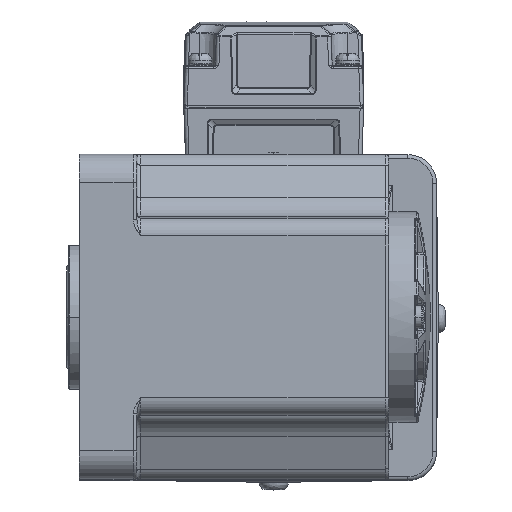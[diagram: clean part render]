
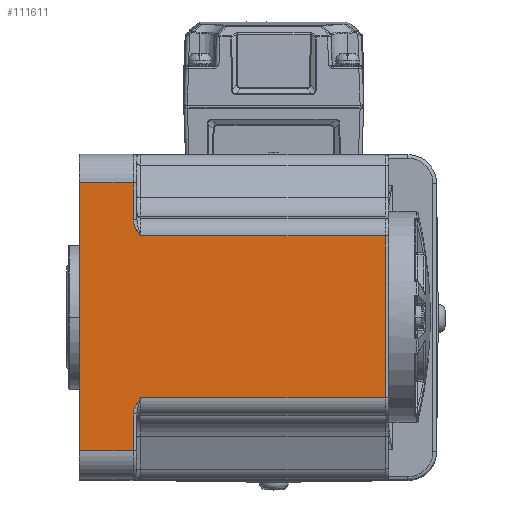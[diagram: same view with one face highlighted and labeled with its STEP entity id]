
A CAD part, top view. The second image highlights one B-rep face of the part: STEP entity #111611.
In plain terms, the highlighted planar face has unit normal (0, 0, 1) as drawn and (1, 0, 0) by its records, which use the part's own axes.
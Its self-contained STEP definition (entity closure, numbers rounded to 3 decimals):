
#111045=CARTESIAN_POINT('',(45.25,-37.25,0.));
#111046=VERTEX_POINT('',#111045);
#111054=CARTESIAN_POINT('',(45.25,37.25,0.));
#111055=VERTEX_POINT('',#111054);
#111056=CARTESIAN_POINT('',(45.25,-37.25,0.));
#111057=DIRECTION('',(0.,1.,0.));
#111058=VECTOR('',#111057,74.5);
#111059=LINE('',#111056,#111058);
#111060=EDGE_CURVE('',#111046,#111055,#111059,.T.);
#111491=CARTESIAN_POINT('',(45.25,-37.25,-15.));
#111492=VERTEX_POINT('',#111491);
#111500=CARTESIAN_POINT('',(45.25,-37.25,-15.));
#111501=DIRECTION('',(0.,0.,1.));
#111502=VECTOR('',#111501,15.);
#111503=LINE('',#111500,#111502);
#111504=EDGE_CURVE('',#111492,#111046,#111503,.T.);
#111510=CARTESIAN_POINT('',(45.25,-45.25,0.4));
#111511=DIRECTION('',(0.,1.,0.));
#111512=DIRECTION('',(1.,0.,0.));
#111513=AXIS2_PLACEMENT_3D('',#111510,#111512,#111511);
#111514=PLANE('',#111513);
#111515=ORIENTED_EDGE('',*,*,#111504,.F.);
#111516=CARTESIAN_POINT('',(45.25,-26.972,-15.));
#111517=VERTEX_POINT('',#111516);
#111518=CARTESIAN_POINT('',(45.25,-37.25,-15.));
#111519=DIRECTION('',(0.,1.,0.));
#111520=VECTOR('',#111519,10.278);
#111521=LINE('',#111518,#111520);
#111522=EDGE_CURVE('',#111492,#111517,#111521,.T.);
#111523=ORIENTED_EDGE('E64',*,*,#111522,.T.);
#111524=CARTESIAN_POINT('',(45.25,-23.988,-16.));
#111525=VERTEX_POINT('',#111524);
#111526=CARTESIAN_POINT('',(45.25,-26.972,-15.));
#111527=CARTESIAN_POINT('',(45.25,-26.676,-15.));
#111528=CARTESIAN_POINT('',(45.25,-26.06,-15.07));
#111529=CARTESIAN_POINT('',(45.25,-25.009,-15.428));
#111530=CARTESIAN_POINT('',(45.25,-24.334,-15.791));
#111531=CARTESIAN_POINT('',(45.25,-23.988,-16.));
#111532=B_SPLINE_CURVE_WITH_KNOTS('',3,(#111526,#111527,#111528,#111529,#111530,#111531),.UNSPECIFIED.,.F.,.U.,(4,1,1,4),(0.,0.333,0.667,1.),.UNSPECIFIED.);
#111533=EDGE_CURVE('',#111517,#111525,#111532,.T.);
#111534=ORIENTED_EDGE('E65',*,*,#111533,.T.);
#111535=CARTESIAN_POINT('',(45.25,-22.5,-17.));
#111536=VERTEX_POINT('',#111535);
#111537=CARTESIAN_POINT('',(45.25,-23.988,-16.));
#111538=CARTESIAN_POINT('',(45.25,-23.824,-16.099));
#111539=CARTESIAN_POINT('',(45.25,-23.483,-16.316));
#111540=CARTESIAN_POINT('',(45.25,-22.991,-16.653));
#111541=CARTESIAN_POINT('',(45.25,-22.659,-16.887));
#111542=CARTESIAN_POINT('',(45.25,-22.5,-17.));
#111543=B_SPLINE_CURVE_WITH_KNOTS('',3,(#111537,#111538,#111539,#111540,#111541,#111542),.UNSPECIFIED.,.F.,.U.,(4,1,1,4),(0.,0.317,0.672,1.),.UNSPECIFIED.);
#111544=EDGE_CURVE('',#111525,#111536,#111543,.T.);
#111545=ORIENTED_EDGE('E66',*,*,#111544,.T.);
#111546=CARTESIAN_POINT('',(45.25,-22.5,-85.));
#111547=VERTEX_POINT('',#111546);
#111548=CARTESIAN_POINT('',(45.25,-22.5,-17.));
#111549=DIRECTION('',(0.,0.,-1.));
#111550=VECTOR('',#111549,68.);
#111551=LINE('',#111548,#111550);
#111552=EDGE_CURVE('',#111536,#111547,#111551,.T.);
#111553=ORIENTED_EDGE('E67',*,*,#111552,.T.);
#111554=CARTESIAN_POINT('',(45.25,22.5,-85.));
#111555=VERTEX_POINT('',#111554);
#111556=CARTESIAN_POINT('',(45.25,-22.5,-85.));
#111557=DIRECTION('',(0.,1.,0.));
#111558=VECTOR('',#111557,45.);
#111559=LINE('',#111556,#111558);
#111560=EDGE_CURVE('',#111547,#111555,#111559,.T.);
#111561=ORIENTED_EDGE('E68',*,*,#111560,.T.);
#111562=CARTESIAN_POINT('',(45.25,22.5,-17.));
#111563=VERTEX_POINT('',#111562);
#111564=CARTESIAN_POINT('',(45.25,22.5,-85.));
#111565=DIRECTION('',(0.,0.,1.));
#111566=VECTOR('',#111565,68.);
#111567=LINE('',#111564,#111566);
#111568=EDGE_CURVE('',#111555,#111563,#111567,.T.);
#111569=ORIENTED_EDGE('E69',*,*,#111568,.T.);
#111570=CARTESIAN_POINT('',(45.25,23.988,-16.));
#111571=VERTEX_POINT('',#111570);
#111572=CARTESIAN_POINT('',(45.25,22.5,-17.));
#111573=CARTESIAN_POINT('',(45.25,22.655,-16.891));
#111574=CARTESIAN_POINT('',(45.25,22.981,-16.66));
#111575=CARTESIAN_POINT('',(45.25,23.473,-16.323));
#111576=CARTESIAN_POINT('',(45.25,23.819,-16.103));
#111577=CARTESIAN_POINT('',(45.25,23.988,-16.));
#111578=B_SPLINE_CURVE_WITH_KNOTS('',3,(#111572,#111573,#111574,#111575,#111576,#111577),.UNSPECIFIED.,.F.,.U.,(4,1,1,4),(0.,0.318,0.672,1.),.UNSPECIFIED.);
#111579=EDGE_CURVE('',#111563,#111571,#111578,.T.);
#111580=ORIENTED_EDGE('E70',*,*,#111579,.T.);
#111581=CARTESIAN_POINT('',(45.25,26.972,-15.));
#111582=VERTEX_POINT('',#111581);
#111583=CARTESIAN_POINT('',(45.25,23.988,-16.));
#111584=CARTESIAN_POINT('',(45.25,24.228,-15.855));
#111585=CARTESIAN_POINT('',(45.25,24.693,-15.598));
#111586=CARTESIAN_POINT('',(45.25,25.343,-15.312));
#111587=CARTESIAN_POINT('',(45.25,25.943,-15.123));
#111588=CARTESIAN_POINT('',(45.25,26.49,-15.02));
#111589=CARTESIAN_POINT('',(45.25,26.817,-15.));
#111590=CARTESIAN_POINT('',(45.25,26.972,-15.));
#111591=B_SPLINE_CURVE_WITH_KNOTS('',3,(#111583,#111584,#111585,#111586,#111587,#111588,#111589,#111590),.UNSPECIFIED.,.F.,.U.,(4,1,1,1,1,4),(0.,0.2,0.4,0.6,0.8,1.),.UNSPECIFIED.);
#111592=EDGE_CURVE('',#111571,#111582,#111591,.T.);
#111593=ORIENTED_EDGE('E71',*,*,#111592,.T.);
#111594=CARTESIAN_POINT('',(45.25,37.25,-15.));
#111595=VERTEX_POINT('',#111594);
#111596=CARTESIAN_POINT('',(45.25,26.972,-15.));
#111597=DIRECTION('',(0.,1.,0.));
#111598=VECTOR('',#111597,10.278);
#111599=LINE('',#111596,#111598);
#111600=EDGE_CURVE('',#111582,#111595,#111599,.T.);
#111601=ORIENTED_EDGE('E72',*,*,#111600,.T.);
#111602=CARTESIAN_POINT('',(45.25,37.25,-15.));
#111603=DIRECTION('',(0.,0.,1.));
#111604=VECTOR('',#111603,15.);
#111605=LINE('',#111602,#111604);
#111606=EDGE_CURVE('',#111595,#111055,#111605,.T.);
#111607=ORIENTED_EDGE('E73',*,*,#111606,.T.);
#111608=ORIENTED_EDGE('E73',*,*,#111060,.F.);
#111609=EDGE_LOOP('',(#111515,#111523,#111534,#111545,#111553,#111561,#111569,#111580,#111593,#111601,#111607,#111608));
#111610=FACE_OUTER_BOUND('',#111609,.T.);
#111611=ADVANCED_FACE('F6',(#111610),#111514,.T.);
